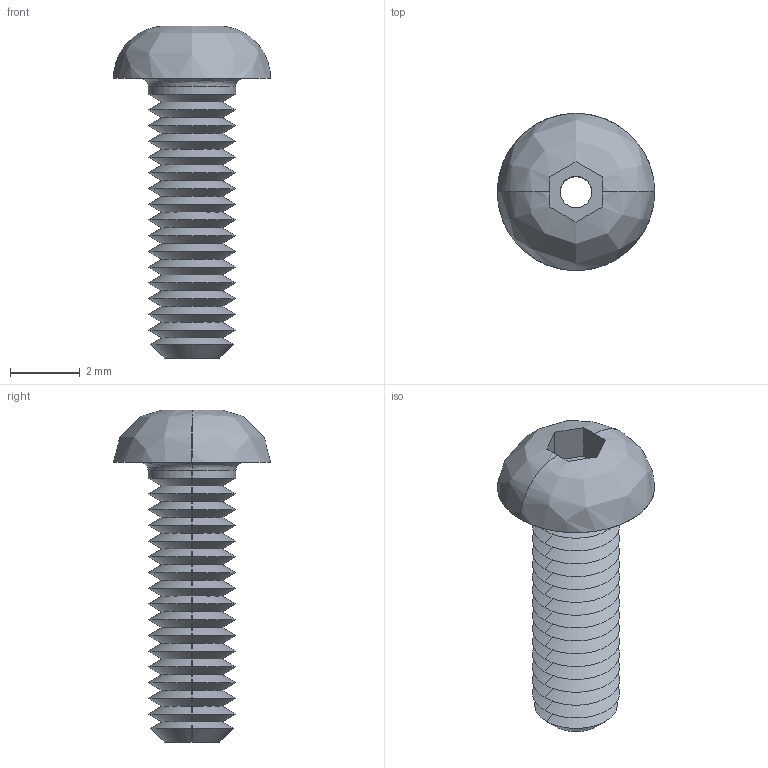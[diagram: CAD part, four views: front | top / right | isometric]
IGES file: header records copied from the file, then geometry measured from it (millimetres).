
Start section: SolidWorks IGES file using analytic representation for surfaces
Global section: file name: C:\Users\liam_\OneDrive\Documents\WORK\Work for WixRoyd\Job Files\J-00019 - Matt Davis CAD Checking\04. CAD Drawings\automotion20190605\P0094_v2\P0094_v2_20190712_IGES\P0094.025-008-A2.igs; native system: SolidWorks 2017; preprocessor: SolidWorks 2017; author: liam_; date: 190712.175038; units: millimetre
Bounding box: 4.5 x 4.5 x 9.5 mm (x, y, z)
Surface area: 169.1 mm2 (no closed solid volume)
Topology: 0 solids, 0 shells, 83 faces, 478 edges, 478 vertices
Faces by surface type: revolution 70, bspline 13
